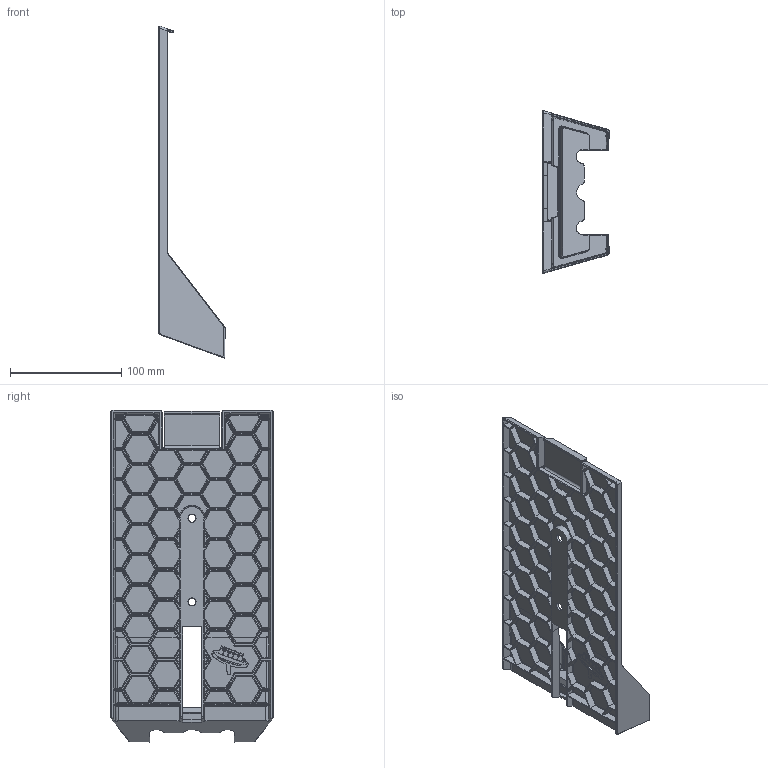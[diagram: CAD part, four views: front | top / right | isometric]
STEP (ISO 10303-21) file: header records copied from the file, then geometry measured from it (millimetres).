
FILE_DESCRIPTION(/* description */ (''),/* implementation_level */ '2;1');
FILE_NAME(/* name */ 'Flat High Performance Power Supply Mount.stp',/* time_stamp */ '2022-10-13T13:26:17-07:00',/* author */ (''),/* organization */ (''),/* preprocessor_version */ 'ST-DEVELOPER v18.102',/* originating_system */ 'SIEMENS PLM Software NX 2023',/* authorisation */ '');
FILE_SCHEMA (('AP203_CONFIGURATION_CONTROLLED_3D_DESIGN_OF_MECHANICAL_PARTS_AND_ASSEMBLIES_MIM_LF { 1 0 10303 203 3 1 4 }'));
Products named in the file (1): 06512001-523_A
Bounding box: 59.57 x 145.6 x 297.89 mm (x, y, z)
Volume: 164886.7 mm3; surface area: 153165.6 mm2
Topology: 1 solids, 13 shells, 2824 faces, 7221 edges, 4512 vertices
Faces by surface type: plane 1260, cylinder 849, bspline 691, sphere 7, cone 7, extrusion 7, torus 3
Entity records: 101849 total; most frequent: CARTESIAN_POINT 36150, ORIENTED_EDGE 14386, DIRECTION 12878, EDGE_CURVE 7193, AXIS2_PLACEMENT_3D 4563, VERTEX_POINT 4502, VECTOR 3752, LINE 3745
